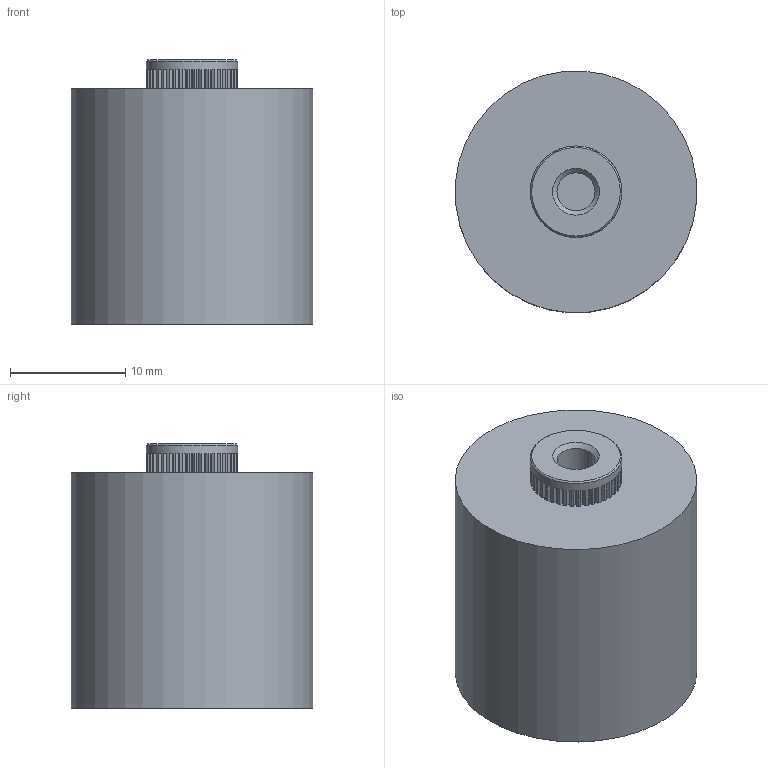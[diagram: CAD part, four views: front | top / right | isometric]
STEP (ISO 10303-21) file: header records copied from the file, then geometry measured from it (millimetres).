
FILE_DESCRIPTION((''),'2;1');
FILE_NAME('I:\Marketing\M6t1\M6T1 - Internal\Drawings\Werk 3\Finished product\Ceramite\Upload for homepage\715\Unterordner\715C20KTT28\Bauteil32.stp','2013-06-10T14:16:53',('sherden'),(''),'Autodesk Inventor 2013','Autodesk Inventor 2013','');
FILE_SCHEMA(('AUTOMOTIVE_DESIGN { 1 2 10303 214 0 1 1 1 }'));
Length unit declared in the file: millimetre
Products named in the file (1): Bauteil32
Bounding box: 20.96 x 20.96 x 23 mm (x, y, z)
Volume: 7117.9 mm3; surface area: 2395.1 mm2
Topology: 1 solids, 41 shells, 573 faces, 1419 edges, 932 vertices
Faces by surface type: plane 486, cylinder 84, cone 3
Full cylindrical faces by diameter (mm): 3.302 x2, 7.95 x1, 21 x1
Entity records: 17304 total; most frequent: CARTESIAN_POINT 2916, ORIENTED_EDGE 2822, DIRECTION 2810, EDGE_CURVE 1411, VECTOR 1160, LINE 1160, VERTEX_POINT 931, AXIS2_PLACEMENT_3D 825
